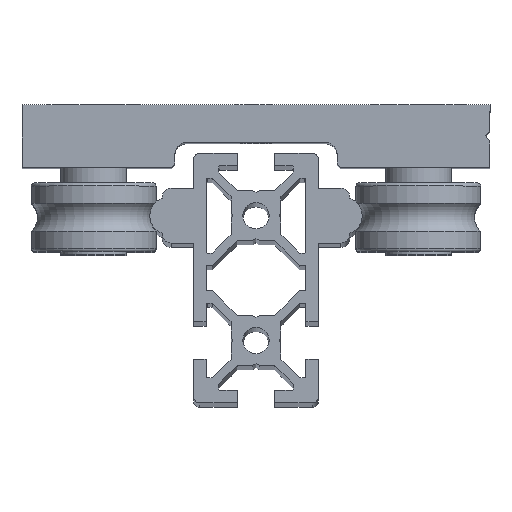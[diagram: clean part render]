
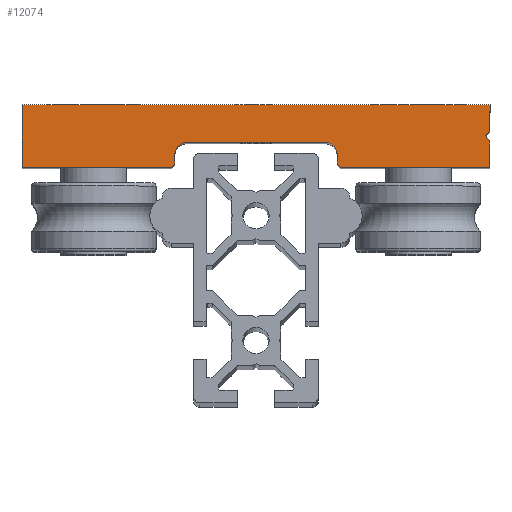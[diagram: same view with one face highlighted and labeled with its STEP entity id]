
A CAD part, top view. The second image highlights one B-rep face of the part: STEP entity #12074.
In plain terms, the highlighted planar face has unit normal (0, 0, 1).
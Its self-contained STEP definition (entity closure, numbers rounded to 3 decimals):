
#87 = DIRECTION ( 'NONE',  ( 0., 0., -1. ) ) ;
#388 = EDGE_CURVE ( 'NONE', #537, #12427, #1533, .T. ) ;
#402 = DIRECTION ( 'NONE',  ( 0., 1., 0. ) ) ;
#449 = CARTESIAN_POINT ( 'NONE',  ( 37.5, 0., 130. ) ) ;
#537 = VERTEX_POINT ( 'NONE', #1684 ) ;
#547 = ORIENTED_EDGE ( 'NONE', *, *, #13077, .T. ) ;
#838 = VERTEX_POINT ( 'NONE', #9591 ) ;
#899 = EDGE_CURVE ( 'NONE', #4010, #11570, #12151, .T. ) ;
#901 = CARTESIAN_POINT ( 'NONE',  ( -11., 4., 130. ) ) ;
#1017 = LINE ( 'NONE', #10924, #2351 ) ;
#1159 = AXIS2_PLACEMENT_3D ( 'NONE', #12150, #87, #10931 ) ;
#1168 = VERTEX_POINT ( 'NONE', #5771 ) ;
#1268 = VERTEX_POINT ( 'NONE', #10619 ) ;
#1351 = VECTOR ( 'NONE', #2579, 1000. ) ;
#1533 = LINE ( 'NONE', #12318, #8958 ) ;
#1609 = VECTOR ( 'NONE', #5177, 1000. ) ;
#1684 = CARTESIAN_POINT ( 'NONE',  ( 37.5, 4.2, 130. ) ) ;
#1797 = AXIS2_PLACEMENT_3D ( 'NONE', #12298, #7649, #2102 ) ;
#1865 = EDGE_CURVE ( 'NONE', #3636, #838, #13239, .T. ) ;
#2070 = CARTESIAN_POINT ( 'NONE',  ( 36.7, 5., 130. ) ) ;
#2084 = EDGE_CURVE ( 'NONE', #11570, #7990, #8664, .T. ) ;
#2102 = DIRECTION ( 'NONE',  ( -1., 0., 0. ) ) ;
#2237 = VECTOR ( 'NONE', #6088, 1000. ) ;
#2351 = VECTOR ( 'NONE', #10988, 1000. ) ;
#2418 = CARTESIAN_POINT ( 'NONE',  ( 37.5, 10., 130. ) ) ;
#2457 = EDGE_LOOP ( 'NONE', ( #547, #4529, #5616, #9609, #5472, #8867, #13269, #11288, #5025, #5726, #12868, #4658, #4798, #2948, #6584 ) ) ;
#2579 = DIRECTION ( 'NONE',  ( 0.707, 0.707, 0. ) ) ;
#2702 = EDGE_CURVE ( 'NONE', #7990, #537, #3854, .T. ) ;
#2892 = VERTEX_POINT ( 'NONE', #10651 ) ;
#2924 = LINE ( 'NONE', #7183, #1609 ) ;
#2948 = ORIENTED_EDGE ( 'NONE', *, *, #11055, .T. ) ;
#2963 = DIRECTION ( 'NONE',  ( -1., 0., 0. ) ) ;
#3173 = EDGE_CURVE ( 'NONE', #838, #8028, #13804, .T. ) ;
#3335 = CIRCLE ( 'NONE', #7004, 2. ) ;
#3418 = VECTOR ( 'NONE', #9527, 1000. ) ;
#3574 = CARTESIAN_POINT ( 'NONE',  ( 13., 0.5, 130. ) ) ;
#3636 = VERTEX_POINT ( 'NONE', #7472 ) ;
#3653 = CARTESIAN_POINT ( 'NONE',  ( -13., 0.5, 130. ) ) ;
#3854 = LINE ( 'NONE', #8983, #2237 ) ;
#3858 = PLANE ( 'NONE',  #1159 ) ;
#4010 = VERTEX_POINT ( 'NONE', #3574 ) ;
#4095 = VECTOR ( 'NONE', #4493, 1000. ) ;
#4493 = DIRECTION ( 'NONE',  ( 1., 0., 0. ) ) ;
#4500 = DIRECTION ( 'NONE',  ( 0.707, -0.707, 0. ) ) ;
#4529 = ORIENTED_EDGE ( 'NONE', *, *, #899, .T. ) ;
#4658 = ORIENTED_EDGE ( 'NONE', *, *, #12654, .T. ) ;
#4798 = ORIENTED_EDGE ( 'NONE', *, *, #5050, .T. ) ;
#5025 = ORIENTED_EDGE ( 'NONE', *, *, #1865, .T. ) ;
#5050 = EDGE_CURVE ( 'NONE', #1168, #13651, #3335, .T. ) ;
#5177 = DIRECTION ( 'NONE',  ( -1., 0., 0. ) ) ;
#5472 = ORIENTED_EDGE ( 'NONE', *, *, #388, .T. ) ;
#5613 = CARTESIAN_POINT ( 'NONE',  ( 13.5, 0., 130. ) ) ;
#5616 = ORIENTED_EDGE ( 'NONE', *, *, #2084, .T. ) ;
#5674 = DIRECTION ( 'NONE',  ( 0.707, 0.707, 0. ) ) ;
#5726 = ORIENTED_EDGE ( 'NONE', *, *, #3173, .T. ) ;
#5771 = CARTESIAN_POINT ( 'NONE',  ( -13., 2., 130. ) ) ;
#5802 = VECTOR ( 'NONE', #402, 1000. ) ;
#5882 = LINE ( 'NONE', #10291, #5802 ) ;
#5960 = LINE ( 'NONE', #10303, #1351 ) ;
#6088 = DIRECTION ( 'NONE',  ( 0., 1., 0. ) ) ;
#6584 = ORIENTED_EDGE ( 'NONE', *, *, #7889, .T. ) ;
#6717 = CARTESIAN_POINT ( 'NONE',  ( -37.5, 0., 130. ) ) ;
#6892 = VECTOR ( 'NONE', #5674, 1000. ) ;
#7004 = AXIS2_PLACEMENT_3D ( 'NONE', #14020, #11637, #2963 ) ;
#7183 = CARTESIAN_POINT ( 'NONE',  ( -37.5, 10., 130. ) ) ;
#7472 = CARTESIAN_POINT ( 'NONE',  ( -37.5, 10., 130. ) ) ;
#7639 = CARTESIAN_POINT ( 'NONE',  ( -37.5, 0., 130. ) ) ;
#7649 = DIRECTION ( 'NONE',  ( 0., 0., -1. ) ) ;
#7889 = EDGE_CURVE ( 'NONE', #1268, #9077, #8475, .T. ) ;
#7990 = VERTEX_POINT ( 'NONE', #449 ) ;
#8028 = VERTEX_POINT ( 'NONE', #13876 ) ;
#8475 = CIRCLE ( 'NONE', #1797, 2. ) ;
#8564 = EDGE_CURVE ( 'NONE', #8028, #9737, #5960, .T. ) ;
#8650 = CARTESIAN_POINT ( 'NONE',  ( 36.7, 5., 130. ) ) ;
#8664 = LINE ( 'NONE', #7639, #4095 ) ;
#8792 = EDGE_CURVE ( 'NONE', #2892, #10774, #9705, .T. ) ;
#8867 = ORIENTED_EDGE ( 'NONE', *, *, #11486, .T. ) ;
#8958 = VECTOR ( 'NONE', #13469, 1000. ) ;
#8983 = CARTESIAN_POINT ( 'NONE',  ( 37.5, 0., 130. ) ) ;
#9077 = VERTEX_POINT ( 'NONE', #13287 ) ;
#9527 = DIRECTION ( 'NONE',  ( 1., 0., 0. ) ) ;
#9591 = CARTESIAN_POINT ( 'NONE',  ( -37.5, 0., 130. ) ) ;
#9609 = ORIENTED_EDGE ( 'NONE', *, *, #2702, .T. ) ;
#9705 = LINE ( 'NONE', #10886, #10832 ) ;
#9737 = VERTEX_POINT ( 'NONE', #3653 ) ;
#9821 = DIRECTION ( 'NONE',  ( 0., -1., 0. ) ) ;
#10045 = DIRECTION ( 'NONE',  ( 1., 0., 0. ) ) ;
#10116 = CARTESIAN_POINT ( 'NONE',  ( 13.5, 0., 130. ) ) ;
#10291 = CARTESIAN_POINT ( 'NONE',  ( -13., 0., 130. ) ) ;
#10303 = CARTESIAN_POINT ( 'NONE',  ( -13., 0.5, 130. ) ) ;
#10502 = FACE_OUTER_BOUND ( 'NONE', #2457, .T. ) ;
#10619 = CARTESIAN_POINT ( 'NONE',  ( 11., 4., 130. ) ) ;
#10651 = CARTESIAN_POINT ( 'NONE',  ( 37.5, 5.8, 130. ) ) ;
#10774 = VERTEX_POINT ( 'NONE', #2418 ) ;
#10832 = VECTOR ( 'NONE', #14127, 1000. ) ;
#10886 = CARTESIAN_POINT ( 'NONE',  ( 37.5, 0., 130. ) ) ;
#10900 = LINE ( 'NONE', #2070, #6892 ) ;
#10924 = CARTESIAN_POINT ( 'NONE',  ( 13., 0., 130. ) ) ;
#10931 = DIRECTION ( 'NONE',  ( -1., 0., 0. ) ) ;
#10988 = DIRECTION ( 'NONE',  ( 0., -1., 0. ) ) ;
#11055 = EDGE_CURVE ( 'NONE', #13651, #1268, #13462, .T. ) ;
#11288 = ORIENTED_EDGE ( 'NONE', *, *, #11769, .T. ) ;
#11486 = EDGE_CURVE ( 'NONE', #12427, #2892, #10900, .T. ) ;
#11570 = VERTEX_POINT ( 'NONE', #5613 ) ;
#11637 = DIRECTION ( 'NONE',  ( 0., 0., -1. ) ) ;
#11769 = EDGE_CURVE ( 'NONE', #10774, #3636, #2924, .T. ) ;
#12074 = ADVANCED_FACE ( 'NONE', ( #10502 ), #3858, .F. ) ;
#12150 = CARTESIAN_POINT ( 'NONE',  ( 0., 0., 130. ) ) ;
#12151 = LINE ( 'NONE', #10116, #12702 ) ;
#12173 = VECTOR ( 'NONE', #9821, 1000. ) ;
#12298 = CARTESIAN_POINT ( 'NONE',  ( 11., 2., 130. ) ) ;
#12318 = CARTESIAN_POINT ( 'NONE',  ( 37.5, 4.2, 130. ) ) ;
#12427 = VERTEX_POINT ( 'NONE', #8650 ) ;
#12457 = CARTESIAN_POINT ( 'NONE',  ( 13., 4., 130. ) ) ;
#12654 = EDGE_CURVE ( 'NONE', #9737, #1168, #5882, .T. ) ;
#12685 = VECTOR ( 'NONE', #10045, 1000. ) ;
#12702 = VECTOR ( 'NONE', #4500, 1000. ) ;
#12727 = CARTESIAN_POINT ( 'NONE',  ( -37.5, 0., 130. ) ) ;
#12868 = ORIENTED_EDGE ( 'NONE', *, *, #8564, .T. ) ;
#13077 = EDGE_CURVE ( 'NONE', #9077, #4010, #1017, .T. ) ;
#13239 = LINE ( 'NONE', #6717, #12173 ) ;
#13269 = ORIENTED_EDGE ( 'NONE', *, *, #8792, .T. ) ;
#13287 = CARTESIAN_POINT ( 'NONE',  ( 13., 2., 130. ) ) ;
#13462 = LINE ( 'NONE', #12457, #12685 ) ;
#13469 = DIRECTION ( 'NONE',  ( -0.707, 0.707, 0. ) ) ;
#13651 = VERTEX_POINT ( 'NONE', #901 ) ;
#13804 = LINE ( 'NONE', #12727, #3418 ) ;
#13876 = CARTESIAN_POINT ( 'NONE',  ( -13.5, 0., 130. ) ) ;
#14020 = CARTESIAN_POINT ( 'NONE',  ( -11., 2., 130. ) ) ;
#14127 = DIRECTION ( 'NONE',  ( 0., 1., 0. ) ) ;
